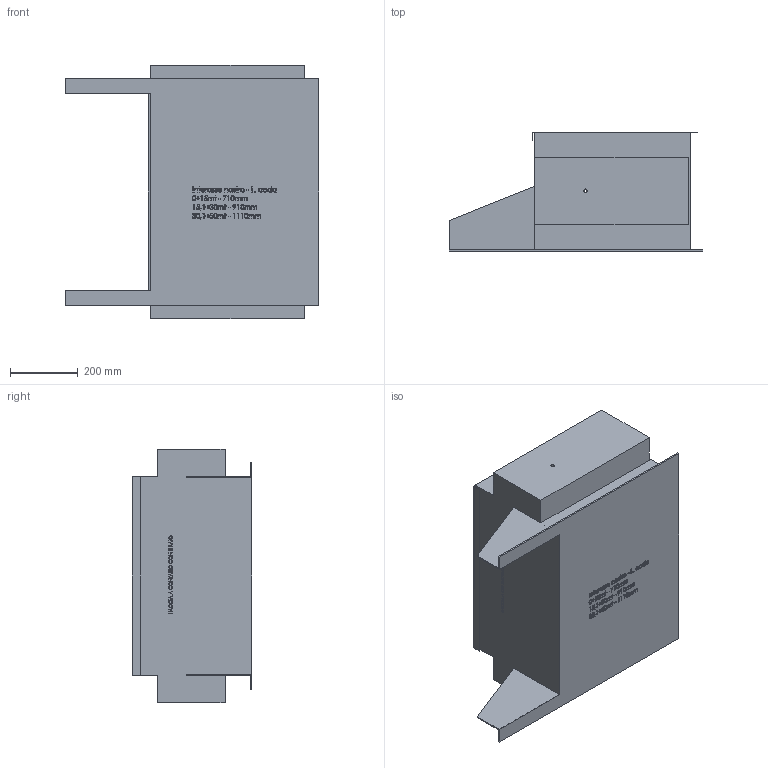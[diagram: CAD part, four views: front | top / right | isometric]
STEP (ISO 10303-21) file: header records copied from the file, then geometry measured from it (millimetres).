
FILE_DESCRIPTION (( 'STEP AP203' ), '1' );
FILE_NAME ('29627.step', '2019-03-14T14:30:53', ( 'PC' ), ( 'Hewlett-Packard Company' ), 'SwSTEP 2.0', 'SolidWorks 2016', '' );
FILE_SCHEMA (( 'CONFIG_CONTROL_DESIGN' ));
Products named in the file (1): 29627
Bounding box: 750 x 353.5 x 750 mm (x, y, z)
Volume: 110809257 mm3; surface area: 1901296 mm2
Topology: 1 solids, 1 shells, 1110 faces, 2964 edges, 1976 vertices
Faces by surface type: plane 679, bspline 429, cylinder 2
Entity records: 57931 total; most frequent: CARTESIAN_POINT 33072, ORIENTED_EDGE 5928, DIRECTION 3474, EDGE_CURVE 2964, LINE 2102, VECTOR 2102, VERTEX_POINT 1976, EDGE_LOOP 1232
